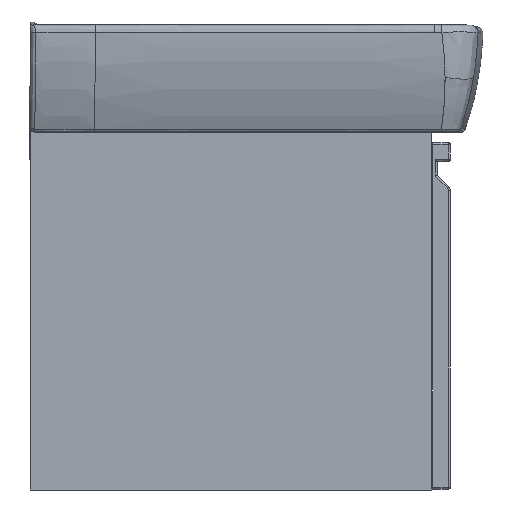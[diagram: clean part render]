
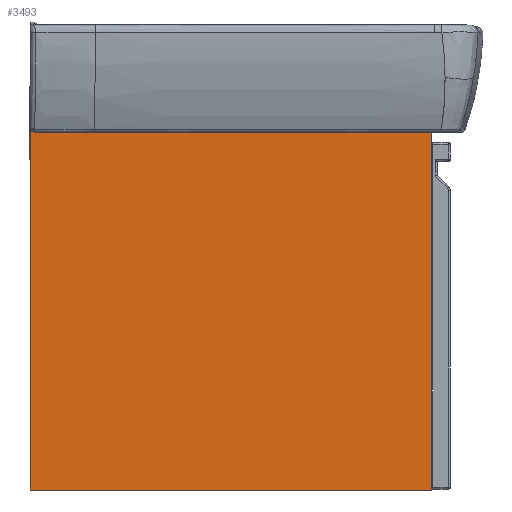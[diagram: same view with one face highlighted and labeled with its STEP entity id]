
A CAD part, left-side view. The second image highlights one B-rep face of the part: STEP entity #3493.
In plain terms, the highlighted planar face has unit normal (-1, 0, 0).
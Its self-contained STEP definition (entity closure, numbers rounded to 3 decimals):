
#3493=ADVANCED_FACE('',(#5112),#26646,.T.);
#5112=FACE_OUTER_BOUND('',#6851,.T.);
#6851=EDGE_LOOP('',(#13733,#13734,#13735,#13736));
#13733=ORIENTED_EDGE('',*,*,#18863,.F.);
#13734=ORIENTED_EDGE('',*,*,#18867,.F.);
#13735=ORIENTED_EDGE('',*,*,#18872,.T.);
#13736=ORIENTED_EDGE('',*,*,#18870,.F.);
#18863=EDGE_CURVE('',#25441,#25442,#22632,.T.);
#18867=EDGE_CURVE('',#25444,#25441,#22636,.T.);
#18870=EDGE_CURVE('',#25442,#25446,#22639,.T.);
#18872=EDGE_CURVE('',#25444,#25446,#22641,.T.);
#22632=B_SPLINE_CURVE_WITH_KNOTS('',1,(#61427,#61428),.UNSPECIFIED.,.F.,
 .F.,(2,2),(-430.,0.),.UNSPECIFIED.);
#22636=B_SPLINE_CURVE_WITH_KNOTS('',1,(#61435,#61436),.UNSPECIFIED.,.F.,
 .F.,(2,2),(0.,387.),.UNSPECIFIED.);
#22639=B_SPLINE_CURVE_WITH_KNOTS('',1,(#61441,#61442),.UNSPECIFIED.,.F.,
 .F.,(2,2),(-387.,0.),.UNSPECIFIED.);
#22641=B_SPLINE_CURVE_WITH_KNOTS('',1,(#61445,#61446),.UNSPECIFIED.,.F.,
 .F.,(2,2),(0.,430.),.UNSPECIFIED.);
#25441=VERTEX_POINT('',#61417);
#25442=VERTEX_POINT('',#61418);
#25444=VERTEX_POINT('',#61420);
#25446=VERTEX_POINT('',#61422);
#26646=PLANE('',#28390);
#28390=AXIS2_PLACEMENT_3D('',#61413,#29438,$);
#29438=DIRECTION('',(-1.,0.,0.));
#61413=CARTESIAN_POINT('',(3731.937,-2538.661,-1899.111));
#61417=CARTESIAN_POINT('',(3731.937,-2065.541,-1473.291));
#61418=CARTESIAN_POINT('',(3731.937,-2495.541,-1473.291));
#61420=CARTESIAN_POINT('',(3731.937,-2065.541,-1860.291));
#61422=CARTESIAN_POINT('',(3731.937,-2495.541,-1860.291));
#61427=CARTESIAN_POINT('',(3731.937,-2065.541,-1473.291));
#61428=CARTESIAN_POINT('',(3731.937,-2495.541,-1473.291));
#61435=CARTESIAN_POINT('',(3731.937,-2065.541,-1860.291));
#61436=CARTESIAN_POINT('',(3731.937,-2065.541,-1473.291));
#61441=CARTESIAN_POINT('',(3731.937,-2495.541,-1473.291));
#61442=CARTESIAN_POINT('',(3731.937,-2495.541,-1860.291));
#61445=CARTESIAN_POINT('',(3731.937,-2065.541,-1860.291));
#61446=CARTESIAN_POINT('',(3731.937,-2495.541,-1860.291));
